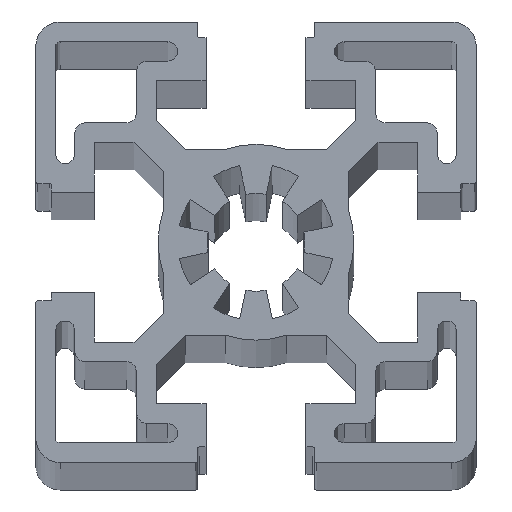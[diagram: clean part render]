
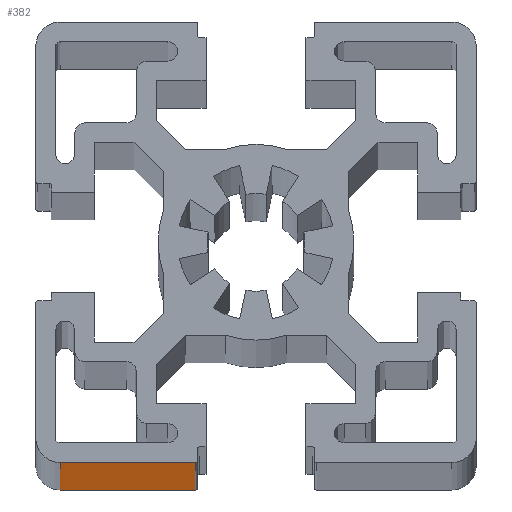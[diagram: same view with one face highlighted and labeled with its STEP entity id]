
A CAD part, top view. The second image highlights one B-rep face of the part: STEP entity #382.
In plain terms, the highlighted planar face has unit normal (0, -1, 0).
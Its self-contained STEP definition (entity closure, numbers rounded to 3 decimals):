
#382=ADVANCED_FACE('',(#664),#540,.T.);
#540=PLANE('',#3882);
#664=FACE_OUTER_BOUND('',#852,.T.);
#852=EDGE_LOOP('',(#1512,#1513,#1514,#1515));
#1512=ORIENTED_EDGE('',*,*,#2703,.F.);
#1513=ORIENTED_EDGE('',*,*,#2782,.F.);
#1514=ORIENTED_EDGE('',*,*,#2538,.T.);
#1515=ORIENTED_EDGE('',*,*,#2781,.T.);
#2143=VERTEX_POINT('',#5339);
#2144=VERTEX_POINT('',#5341);
#2306=VERTEX_POINT('',#5668);
#2307=VERTEX_POINT('',#5670);
#2538=EDGE_CURVE('',#2144,#2143,#3027,.T.);
#2703=EDGE_CURVE('',#2306,#2307,#3135,.T.);
#2781=EDGE_CURVE('',#2143,#2307,#3178,.T.);
#2782=EDGE_CURVE('',#2144,#2306,#3179,.T.);
#3027=LINE('',#5340,#3419);
#3135=LINE('',#5669,#3527);
#3178=LINE('',#5822,#3570);
#3179=LINE('',#5824,#3571);
#3419=VECTOR('',#4294,1.);
#3527=VECTOR('',#4518,1.);
#3570=VECTOR('',#4639,1.);
#3571=VECTOR('',#4642,1.);
#3882=AXIS2_PLACEMENT_3D('',#5825,#4643,#4644);
#4294=DIRECTION('',(-1.,0.,0.));
#4518=DIRECTION('',(-1.,0.,0.));
#4639=DIRECTION('',(0.,0.,-1.));
#4642=DIRECTION('',(0.,0.,-1.));
#4643=DIRECTION('',(0.,-1.,0.));
#4644=DIRECTION('',(1.,0.,0.));
#5339=CARTESIAN_POINT('',(-20.,-22.5,1010.));
#5340=CARTESIAN_POINT('',(-6.2,-22.5,1010.));
#5341=CARTESIAN_POINT('',(-6.2,-22.5,1010.));
#5668=CARTESIAN_POINT('',(-6.2,-22.5,-600.));
#5669=CARTESIAN_POINT('',(-6.2,-22.5,-600.));
#5670=CARTESIAN_POINT('',(-20.,-22.5,-600.));
#5822=CARTESIAN_POINT('',(-20.,-22.5,0.));
#5824=CARTESIAN_POINT('',(-6.2,-22.5,0.));
#5825=CARTESIAN_POINT('',(-6.2,-22.5,0.));
